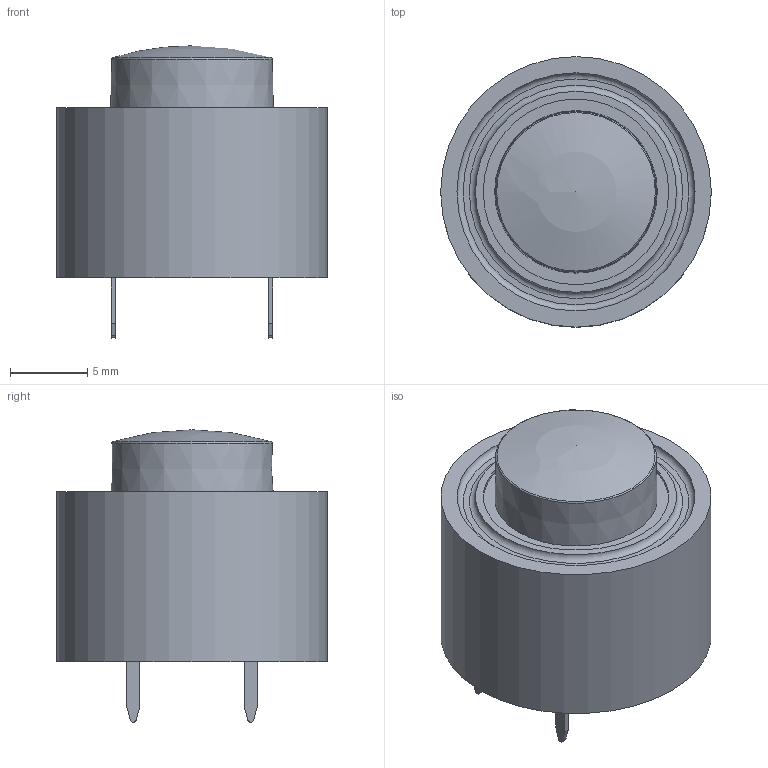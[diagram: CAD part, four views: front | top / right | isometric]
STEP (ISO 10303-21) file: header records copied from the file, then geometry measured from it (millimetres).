
FILE_DESCRIPTION(/* description */ (''),/* implementation_level */ '2;1');
FILE_NAME(/* name */ 'C:\Users\cgh.MEC\Desktop\Traceparts - 3D programserie\STEP filer\il-TH\5GTH9xxxxxxx+1US+1UW.stp',/* time_stamp */ '2016-02-29T08:20:57+01:00',/* author */ ('cgh'),/* organization */ (''),/* preprocessor_version */ 'ST-DEVELOPER v15.2',/* originating_system */ 'Autodesk Inventor 2014',/* authorisation */ '');
FILE_SCHEMA (('AUTOMOTIVE_DESIGN { 1 0 10303 214 3 1 1 }'));
Length unit declared in the file: centimetre
Products named in the file (1): cgh
Bounding box: 17.5 x 17.5 x 18.91 mm (x, y, z)
Volume: 2005.1 mm3; surface area: 2970.3 mm2
Topology: 1 solids, 1 shells, 1336 faces, 3794 edges, 2468 vertices
Faces by surface type: plane 825, cylinder 226, bspline 156, torus 69, cone 46, sphere 14
Full cylindrical faces by diameter (mm): 0.9 x1, 1 x3, 2.8 x1, 4.73 x1, 6.5 x1, 7.44 x1, 12 x2, 13 x1, 17.5 x1
Entity records: 47308 total; most frequent: CARTESIAN_POINT 12279, ORIENTED_EDGE 7458, DIRECTION 6360, EDGE_CURVE 3729, VERTEX_POINT 2452, LINE 2390, VECTOR 2390, AXIS2_PLACEMENT_3D 1985
